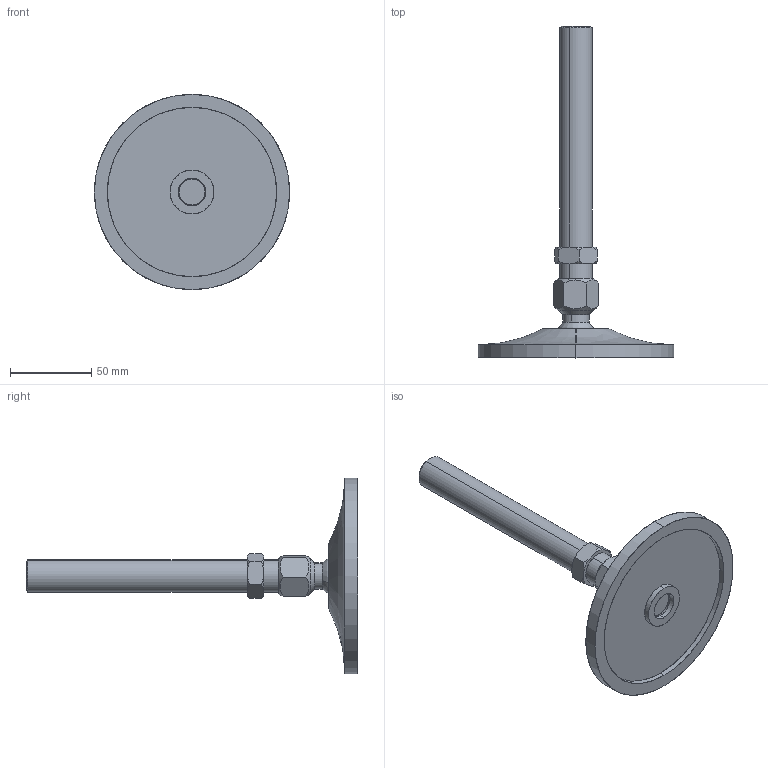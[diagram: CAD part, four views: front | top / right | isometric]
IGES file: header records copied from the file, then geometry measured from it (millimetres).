
Start section: SolidWorks IGES file using analytic representation for surfaces
Global section: file name: C:\Documents and Settings\URETIM3\Desktop\yeni katalog tolgay düzenli\A kataloðu\pabuc,saplama montajlarý\507-560 ÇELÝK PASLANMAZ TABANLI VE MÝLLÝ MAFSALLI PABUÇ MONTAJLARI\... 122 021.IGS; native system: SolidWorks 2006 by SolidWorks Corporation; preprocessor: SolidWorks 2006 by SolidWorks Corporation; author: URETIM3; date: 060911.174000; units: millimetre
Bounding box: 120 x 204 x 120 mm (x, y, z)
Surface area: 43453.8 mm2 (no closed solid volume)
Topology: 0 solids, 0 shells, 63 faces, 1092 edges, 1092 vertices
Faces by surface type: revolution 38, bspline 25
